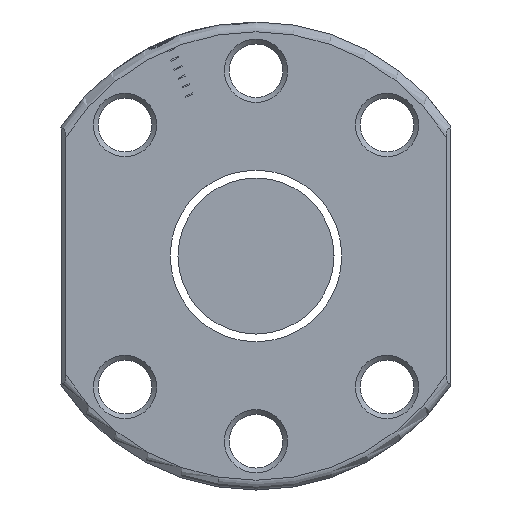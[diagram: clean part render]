
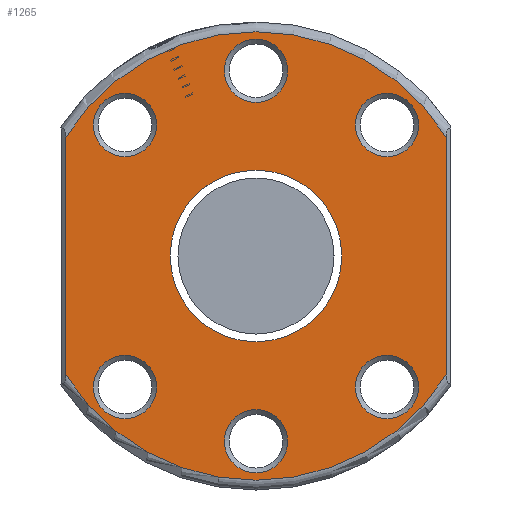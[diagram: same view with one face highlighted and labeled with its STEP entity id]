
A CAD part, left-side view. The second image highlights one B-rep face of the part: STEP entity #1265.
In plain terms, the highlighted planar face has unit normal (-1, 0, 0).
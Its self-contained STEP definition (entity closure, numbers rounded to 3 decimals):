
#5 = EDGE_LOOP ( 'NONE', ( #1812 ) ) ;
#16 = CARTESIAN_POINT ( 'NONE',  ( -40., 0., 19. ) ) ;
#44 = CARTESIAN_POINT ( 'NONE',  ( -40., 0., -19. ) ) ;
#51 = VERTEX_POINT ( 'NONE', #1401 ) ;
#61 = EDGE_LOOP ( 'NONE', ( #1727 ) ) ;
#73 = DIRECTION ( 'NONE',  ( 0., 0., -1. ) ) ;
#147 = EDGE_LOOP ( 'NONE', ( #3060 ) ) ;
#191 = DIRECTION ( 'NONE',  ( 1., 0., 0. ) ) ;
#196 = EDGE_CURVE ( 'NONE', #2209, #1612, #1144, .T. ) ;
#237 = DIRECTION ( 'NONE',  ( 0., 0., -1. ) ) ;
#243 = PLANE ( 'NONE',  #2369 ) ;
#245 = ORIENTED_EDGE ( 'NONE', *, *, #318, .T. ) ;
#255 = CARTESIAN_POINT ( 'NONE',  ( -40., 13.435, -16.685 ) ) ;
#261 = FACE_BOUND ( 'NONE', #61, .T. ) ;
#274 = AXIS2_PLACEMENT_3D ( 'NONE', #1463, #2578, #73 ) ;
#299 = ORIENTED_EDGE ( 'NONE', *, *, #384, .T. ) ;
#307 = CARTESIAN_POINT ( 'NONE',  ( -40., -19.5, -12.196 ) ) ;
#318 = EDGE_CURVE ( 'NONE', #1082, #2209, #3521, .T. ) ;
#327 = EDGE_CURVE ( 'NONE', #2192, #2192, #1085, .T. ) ;
#384 = EDGE_CURVE ( 'NONE', #1140, #1082, #2427, .T. ) ;
#440 = CARTESIAN_POINT ( 'NONE',  ( -40., 0., 0. ) ) ;
#459 = VERTEX_POINT ( 'NONE', #3396 ) ;
#507 = ORIENTED_EDGE ( 'NONE', *, *, #3603, .F. ) ;
#563 = CIRCLE ( 'NONE', #1153, 3.25 ) ;
#604 = ORIENTED_EDGE ( 'NONE', *, *, #196, .T. ) ;
#694 = DIRECTION ( 'NONE',  ( 0., 0., -1. ) ) ;
#730 = DIRECTION ( 'NONE',  ( 0., 0., 1. ) ) ;
#738 = EDGE_LOOP ( 'NONE', ( #245, #604, #2649, #299 ) ) ;
#743 = LINE ( 'NONE', #2444, #3241 ) ;
#748 = CARTESIAN_POINT ( 'NONE',  ( -40., -13.435, 10.185 ) ) ;
#799 = EDGE_LOOP ( 'NONE', ( #507 ) ) ;
#815 = FACE_BOUND ( 'NONE', #1796, .T. ) ;
#824 = DIRECTION ( 'NONE',  ( 0., 0., -1. ) ) ;
#840 = DIRECTION ( 'NONE',  ( 1., 0., 0. ) ) ;
#1012 = DIRECTION ( 'NONE',  ( -1., 0., 0. ) ) ;
#1082 = VERTEX_POINT ( 'NONE', #307 ) ;
#1085 = CIRCLE ( 'NONE', #1540, 3.25 ) ;
#1086 = EDGE_LOOP ( 'NONE', ( #3352 ) ) ;
#1100 = FACE_OUTER_BOUND ( 'NONE', #738, .T. ) ;
#1109 = CARTESIAN_POINT ( 'NONE',  ( -40., 13.435, -13.435 ) ) ;
#1135 = FACE_BOUND ( 'NONE', #1086, .T. ) ;
#1140 = VERTEX_POINT ( 'NONE', #1913 ) ;
#1144 = CIRCLE ( 'NONE', #3301, 23. ) ;
#1153 = AXIS2_PLACEMENT_3D ( 'NONE', #1109, #3084, #1949 ) ;
#1265 = ADVANCED_FACE ( 'NONE', ( #815, #3019, #2201, #3311, #1135, #261, #1625, #1100 ), #243, .F. ) ;
#1269 = CARTESIAN_POINT ( 'NONE',  ( -40., 0., 15.75 ) ) ;
#1311 = CARTESIAN_POINT ( 'NONE',  ( -40., 19.5, 12.196 ) ) ;
#1320 = CIRCLE ( 'NONE', #1846, 3.25 ) ;
#1328 = CARTESIAN_POINT ( 'NONE',  ( -40., 0., 0. ) ) ;
#1401 = CARTESIAN_POINT ( 'NONE',  ( -40., -13.435, -16.685 ) ) ;
#1407 = DIRECTION ( 'NONE',  ( 1., 0., 0. ) ) ;
#1436 = VERTEX_POINT ( 'NONE', #255 ) ;
#1463 = CARTESIAN_POINT ( 'NONE',  ( -40., -13.435, 13.435 ) ) ;
#1533 = EDGE_CURVE ( 'NONE', #3226, #3226, #2718, .T. ) ;
#1540 = AXIS2_PLACEMENT_3D ( 'NONE', #16, #1662, #1641 ) ;
#1612 = VERTEX_POINT ( 'NONE', #1311 ) ;
#1625 = FACE_BOUND ( 'NONE', #799, .T. ) ;
#1638 = CARTESIAN_POINT ( 'NONE',  ( -40., -13.435, -13.435 ) ) ;
#1641 = DIRECTION ( 'NONE',  ( 0., 0., -1. ) ) ;
#1662 = DIRECTION ( 'NONE',  ( 1., 0., 0. ) ) ;
#1677 = AXIS2_PLACEMENT_3D ( 'NONE', #440, #3031, #730 ) ;
#1699 = VERTEX_POINT ( 'NONE', #3340 ) ;
#1727 = ORIENTED_EDGE ( 'NONE', *, *, #327, .T. ) ;
#1796 = EDGE_LOOP ( 'NONE', ( #3149 ) ) ;
#1812 = ORIENTED_EDGE ( 'NONE', *, *, #3216, .T. ) ;
#1846 = AXIS2_PLACEMENT_3D ( 'NONE', #1638, #191, #237 ) ;
#1857 = CARTESIAN_POINT ( 'NONE',  ( -40., -19.5, 0. ) ) ;
#1906 = CIRCLE ( 'NONE', #2372, 3.25 ) ;
#1913 = CARTESIAN_POINT ( 'NONE',  ( -40., 19.5, -12.196 ) ) ;
#1937 = DIRECTION ( 'NONE',  ( -1., 0., 0. ) ) ;
#1949 = DIRECTION ( 'NONE',  ( 0., 0., -1. ) ) ;
#1954 = DIRECTION ( 'NONE',  ( 0., 0., -1. ) ) ;
#1993 = CARTESIAN_POINT ( 'NONE',  ( -40., 0., 0. ) ) ;
#2006 = VERTEX_POINT ( 'NONE', #3048 ) ;
#2029 = DIRECTION ( 'NONE',  ( 0., 0., -1. ) ) ;
#2082 = AXIS2_PLACEMENT_3D ( 'NONE', #44, #3096, #2029 ) ;
#2192 = VERTEX_POINT ( 'NONE', #1269 ) ;
#2201 = FACE_BOUND ( 'NONE', #5, .T. ) ;
#2209 = VERTEX_POINT ( 'NONE', #2385 ) ;
#2369 = AXIS2_PLACEMENT_3D ( 'NONE', #3054, #1407, #3610 ) ;
#2372 = AXIS2_PLACEMENT_3D ( 'NONE', #3319, #840, #824 ) ;
#2385 = CARTESIAN_POINT ( 'NONE',  ( -40., -19.5, 12.196 ) ) ;
#2414 = EDGE_CURVE ( 'NONE', #1612, #1140, #743, .T. ) ;
#2427 = CIRCLE ( 'NONE', #2778, 23. ) ;
#2444 = CARTESIAN_POINT ( 'NONE',  ( -40., 19.5, 0. ) ) ;
#2475 = ORIENTED_EDGE ( 'NONE', *, *, #2724, .T. ) ;
#2578 = DIRECTION ( 'NONE',  ( 1., 0., 0. ) ) ;
#2649 = ORIENTED_EDGE ( 'NONE', *, *, #2414, .T. ) ;
#2672 = EDGE_CURVE ( 'NONE', #459, #459, #1906, .T. ) ;
#2718 = CIRCLE ( 'NONE', #274, 3.25 ) ;
#2724 = EDGE_CURVE ( 'NONE', #1436, #1436, #563, .T. ) ;
#2778 = AXIS2_PLACEMENT_3D ( 'NONE', #1993, #1937, #1954 ) ;
#3019 = FACE_BOUND ( 'NONE', #147, .T. ) ;
#3031 = DIRECTION ( 'NONE',  ( -1., 0., 0. ) ) ;
#3048 = CARTESIAN_POINT ( 'NONE',  ( -40., 0., 8.8 ) ) ;
#3051 = DIRECTION ( 'NONE',  ( 0., 0., 1. ) ) ;
#3054 = CARTESIAN_POINT ( 'NONE',  ( -40., 24., 0. ) ) ;
#3060 = ORIENTED_EDGE ( 'NONE', *, *, #3529, .T. ) ;
#3084 = DIRECTION ( 'NONE',  ( 1., 0., 0. ) ) ;
#3096 = DIRECTION ( 'NONE',  ( 1., 0., 0. ) ) ;
#3128 = VECTOR ( 'NONE', #3051, 1000. ) ;
#3149 = ORIENTED_EDGE ( 'NONE', *, *, #1533, .T. ) ;
#3187 = CIRCLE ( 'NONE', #2082, 3.25 ) ;
#3216 = EDGE_CURVE ( 'NONE', #1699, #1699, #3187, .T. ) ;
#3226 = VERTEX_POINT ( 'NONE', #748 ) ;
#3241 = VECTOR ( 'NONE', #3555, 1000. ) ;
#3296 = EDGE_LOOP ( 'NONE', ( #2475 ) ) ;
#3301 = AXIS2_PLACEMENT_3D ( 'NONE', #1328, #1012, #694 ) ;
#3311 = FACE_BOUND ( 'NONE', #3296, .T. ) ;
#3319 = CARTESIAN_POINT ( 'NONE',  ( -40., 13.435, 13.435 ) ) ;
#3340 = CARTESIAN_POINT ( 'NONE',  ( -40., 0., -22.25 ) ) ;
#3352 = ORIENTED_EDGE ( 'NONE', *, *, #2672, .T. ) ;
#3371 = CIRCLE ( 'NONE', #1677, 8.8 ) ;
#3396 = CARTESIAN_POINT ( 'NONE',  ( -40., 13.435, 10.185 ) ) ;
#3521 = LINE ( 'NONE', #1857, #3128 ) ;
#3529 = EDGE_CURVE ( 'NONE', #51, #51, #1320, .T. ) ;
#3555 = DIRECTION ( 'NONE',  ( 0., 0., -1. ) ) ;
#3603 = EDGE_CURVE ( 'NONE', #2006, #2006, #3371, .T. ) ;
#3610 = DIRECTION ( 'NONE',  ( 0., 0., -1. ) ) ;
